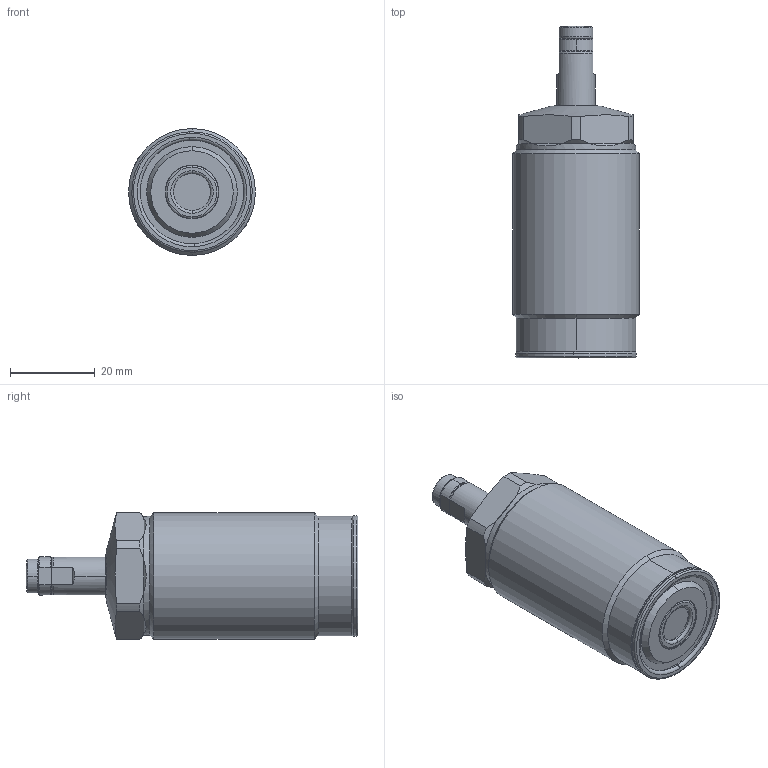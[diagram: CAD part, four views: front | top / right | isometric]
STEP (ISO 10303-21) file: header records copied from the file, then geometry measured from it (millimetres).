
FILE_DESCRIPTION(/* description */ (''),/* implementation_level */ '2;1');
FILE_NAME(/* name */ 'TNE30-M.stp',/* time_stamp */ '2025-01-11T08:22:19+08:00',/* author */ (''),/* organization */ (''),/* preprocessor_version */ 'ST-DEVELOPER v16.7',/* originating_system */ 'SIEMENS PLM Software NX 12.0',/* authorisation */ '');
FILE_SCHEMA (('AUTOMOTIVE_DESIGN { 1 0 10303 214 3 1 1 1 }'));
Length unit declared in the file: millimetre
Products named in the file (10): XLD-M6SP_pad; XLD-M6SP_pin; XLD-M6SP_contactbolt; XLD-M6SP_Oring; TNE30-M01958; TNE30-M05; TNE30-M04; TNE30-M02; XLDM6SP; TNE30_stp
Assembly tree (9 placements, depth 3):
  TNE30_stp
    TNE30-M02
    TNE30-M04
    TNE30-M05
    TNE30-M01958
    XLDM6SP
      XLD-M6SP_Oring
      XLD-M6SP_contactbolt
      XLD-M6SP_pin
      XLD-M6SP_pad
Bounding box: 30 x 78.5 x 30 mm (x, y, z)
Volume: 40514.7 mm3; surface area: 8682.2 mm2
Topology: 8 solids, 8 shells, 192 faces, 426 edges, 255 vertices
Faces by surface type: cylinder 57, torus 50, plane 44, cone 37, sphere 4
Full cylindrical faces by diameter (mm): 28.2 x1, 30 x1
Entity records: 6037 total; most frequent: CARTESIAN_POINT 1455, DIRECTION 1021, ORIENTED_EDGE 844, AXIS2_PLACEMENT_3D 451, EDGE_CURVE 422, VERTEX_POINT 255, CIRCLE 243, EDGE_LOOP 215
